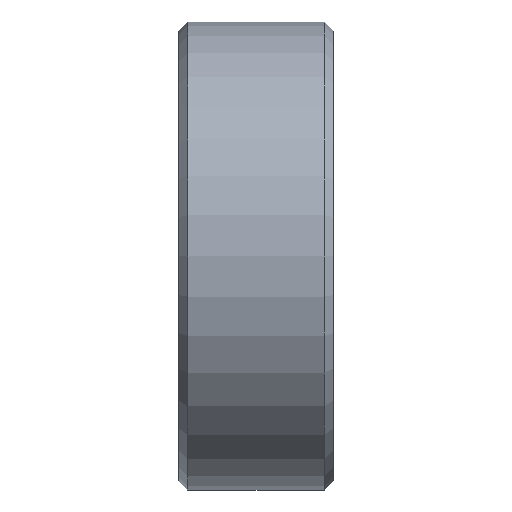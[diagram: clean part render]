
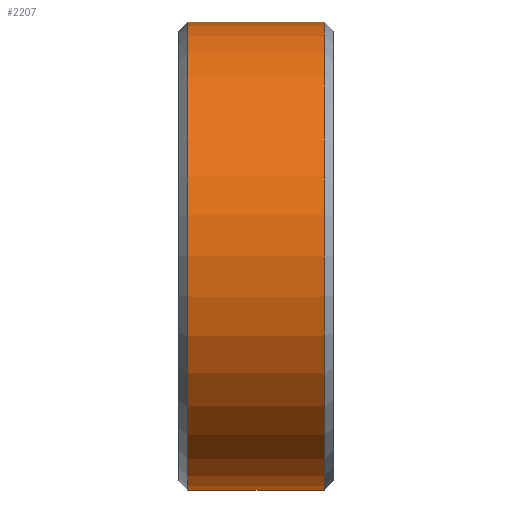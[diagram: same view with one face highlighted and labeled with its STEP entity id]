
A CAD part, front view. The second image highlights one B-rep face of the part: STEP entity #2207.
In plain terms, the highlighted cylindrical face has radius 63.5 mm (diameter 127 mm), a partial arc.
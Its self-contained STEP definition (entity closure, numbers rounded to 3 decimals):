
#51 = DIRECTION ( 'NONE',  ( 1., 0., 0. ) ) ;
#136 = DIRECTION ( 'NONE',  ( 0., 0., -1. ) ) ;
#152 = DIRECTION ( 'NONE',  ( 1., 0., 0. ) ) ;
#160 = CARTESIAN_POINT ( 'NONE',  ( 18.5, 0., 0. ) ) ;
#265 = VERTEX_POINT ( 'NONE', #2346 ) ;
#352 = ORIENTED_EDGE ( 'NONE', *, *, #1274, .T. ) ;
#449 = AXIS2_PLACEMENT_3D ( 'NONE', #1791, #51, #1776 ) ;
#490 = DIRECTION ( 'NONE',  ( 1., 0., 0. ) ) ;
#618 = AXIS2_PLACEMENT_3D ( 'NONE', #160, #1747, #1710 ) ;
#843 = EDGE_CURVE ( 'NONE', #2260, #265, #1455, .T. ) ;
#978 = EDGE_CURVE ( 'NONE', #265, #1999, #1351, .T. ) ;
#1163 = CYLINDRICAL_SURFACE ( 'NONE', #449, 63.5 ) ;
#1270 = DIRECTION ( 'NONE',  ( 1., 0., 0. ) ) ;
#1274 = EDGE_CURVE ( 'NONE', #1775, #1999, #1298, .T. ) ;
#1289 = CARTESIAN_POINT ( 'NONE',  ( -18.5, 0., -63.5 ) ) ;
#1298 = LINE ( 'NONE', #2443, #1799 ) ;
#1351 = CIRCLE ( 'NONE', #618, 63.5 ) ;
#1455 = LINE ( 'NONE', #2252, #2117 ) ;
#1473 = AXIS2_PLACEMENT_3D ( 'NONE', #1848, #490, #136 ) ;
#1710 = DIRECTION ( 'NONE',  ( 0., 0., -1. ) ) ;
#1747 = DIRECTION ( 'NONE',  ( 1., 0., 0. ) ) ;
#1751 = FACE_OUTER_BOUND ( 'NONE', #2464, .T. ) ;
#1775 = VERTEX_POINT ( 'NONE', #1289 ) ;
#1776 = DIRECTION ( 'NONE',  ( 0., 0., -1. ) ) ;
#1791 = CARTESIAN_POINT ( 'NONE',  ( 25.314, 0., 0. ) ) ;
#1799 = VECTOR ( 'NONE', #152, 1000. ) ;
#1812 = EDGE_CURVE ( 'NONE', #2260, #1775, #2471, .T. ) ;
#1848 = CARTESIAN_POINT ( 'NONE',  ( -18.5, 0., 0. ) ) ;
#1999 = VERTEX_POINT ( 'NONE', #2218 ) ;
#2117 = VECTOR ( 'NONE', #1270, 1000. ) ;
#2169 = CARTESIAN_POINT ( 'NONE',  ( -18.5, 0., 63.5 ) ) ;
#2207 = ADVANCED_FACE ( 'NONE', ( #1751 ), #1163, .T. ) ;
#2218 = CARTESIAN_POINT ( 'NONE',  ( 18.5, 0., -63.5 ) ) ;
#2252 = CARTESIAN_POINT ( 'NONE',  ( 25.314, 0., 63.5 ) ) ;
#2260 = VERTEX_POINT ( 'NONE', #2169 ) ;
#2287 = ORIENTED_EDGE ( 'NONE', *, *, #1812, .T. ) ;
#2346 = CARTESIAN_POINT ( 'NONE',  ( 18.5, 0., 63.5 ) ) ;
#2382 = ORIENTED_EDGE ( 'NONE', *, *, #843, .F. ) ;
#2443 = CARTESIAN_POINT ( 'NONE',  ( 25.314, 0., -63.5 ) ) ;
#2464 = EDGE_LOOP ( 'NONE', ( #2382, #2287, #352, #2491 ) ) ;
#2471 = CIRCLE ( 'NONE', #1473, 63.5 ) ;
#2491 = ORIENTED_EDGE ( 'NONE', *, *, #978, .F. ) ;
